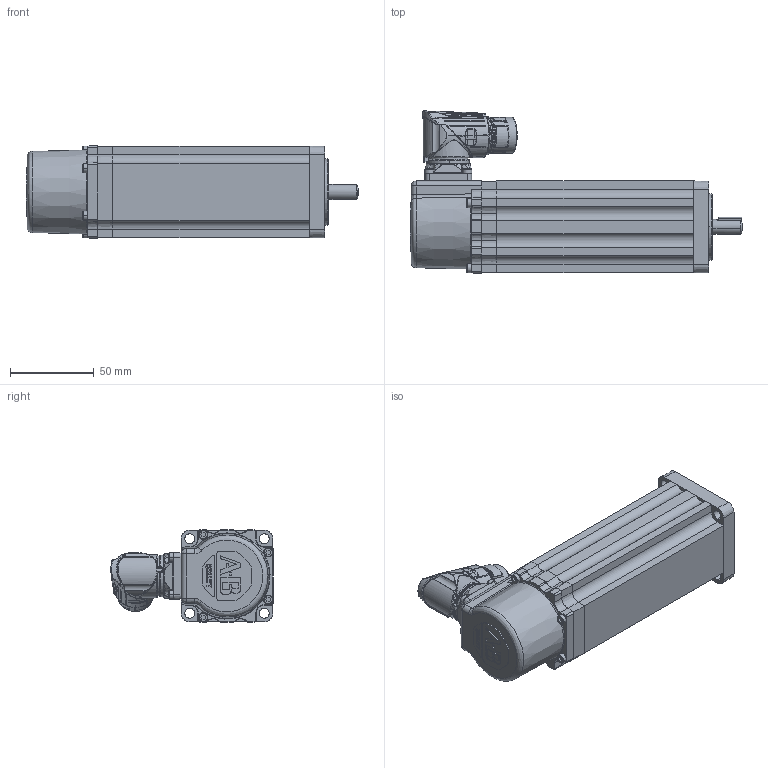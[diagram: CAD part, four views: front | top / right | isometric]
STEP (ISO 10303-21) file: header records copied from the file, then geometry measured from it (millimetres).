
FILE_DESCRIPTION (( 'STEP AP214' ), '1' );
FILE_NAME ('Rockwell Automation-$PARTNUMBER.STEP', '2014-05-11T11:37:57', ( 'Windows User' ), ( '' ), 'SwSTEP 2.0', 'SolidWorks 2014', '' );
FILE_SCHEMA (( 'AUTOMOTIVE_DESIGN' ));
Length unit declared in the file: inch
Products named in the file (25): Rockwell Automation-$PARTNUMBER_Rockwell Automation-VPF-x0632x-xJx4xx_PRT0008; Rockwell Automation-$PARTNUMBER_Rockwell Automation-VPF-x0632x-xJx4xx_PRT0006; Rockwell Automation-$PARTNUMBER_Rockwell Automation-VPF-x0632x-xJx4xx_vpf-063_asm_0632-k-break; Rockwell Automation-$PARTNUMBER_Rockwell Automation-VPF-x0632x-xJx4xx_PRT0004; Rockwell Automation-$PARTNUMBER_Rockwell Automation-VPF-x0632x-xJx4xx_PRT0017; Rockwell Automation-$PARTNUMBER_Rockwell Automation-VPF-x0632x-xJx4xx_PRT0003; Rockwell Automation-$PARTNUMBER_Rockwell Automation-VPF-x0632x-xJx4xx_PRT0016_Shaft_2_4; Rockwell Automation-$PARTNUMBER_Rockwell Automation-VPF-x0632x-xJx4xx_PRT0002; Rockwell Automation-$PARTNUMBER_Rockwell Automation-VPF-x0632x-xJx4xx_ASM0006_ASM; Rockwell Automation-$PARTNUMBER_Rockwell Automation-VPF-x0632x-xJx4xx_Part21_0632-K-BREAK; Rockwell Automation-$PARTNUMBER_Rockwell Automation-VPF-x0632x-xJx4xx_ASM0007_ASM; Rockwell Automation-$PARTNUMBER_Rockwell Automation-VPF-x0632x-xJx4xx_ASM0009_ASM; Rockwell Automation-$PARTNUMBER; Rockwell Automation-$PARTNUMBER_Rockwell Automation-VPF-x0632x-xJx4xx_PRT0019; Rockwell Automation-$PARTNUMBER_Rockwell Automation-VPF-x0632x-xJx4xx_PRT0018; Rockwell Automation-$PARTNUMBER_Rockwell Automation-VPF-x0632x-xJx4xx_PRT0015; Rockwell Automation-$PARTNUMBER_Rockwell Automation-VPF-x0632x-xJx4xx_ASM0002_ASM; Rockwell Automation-$PARTNUMBER_Rockwell Automation-VPF-x0632x-xJx4xx_ASM0005_ASM; Rockwell Automation-$PARTNUMBER_Rockwell Automation-VPF-x0632x-xJx4xx_PRT0011; Rockwell Automation-$PARTNUMBER_Rockwell Automation-VPF-x0632x-xJx4xx_PRT0010; Rockwell Automation-$PARTNUMBER_Rockwell Automation-VPF-x0632x-xJx4xx_ASM0003_ASM; Rockwell Automation-$PARTNUMBER_Rockwell Automation-VPF-x0632x-xJx4xx_ASM0004_ASM; Rockwell Automation-$PARTNUMBER_Rockwell Automation-VPF-x0632x-xJx4xx_PRT0008_1; Rockwell Automation-$PARTNUMBER_Rockwell Automation-VPF-x0632x-xJx4xx_PRT0005; Rockwell Automation-$PARTNUMBER_Rockwell Automation-VPF-x0632x-xJx4xx_PRT0007
Assembly tree (38 placements, depth 6):
  Rockwell Automation-$PARTNUMBER
    Rockwell Automation-$PARTNUMBER_Rockwell Automation-VPF-x0632x-xJx4xx_vpf-063_asm_0632-k-break
      Rockwell Automation-$PARTNUMBER_Rockwell Automation-VPF-x0632x-xJx4xx_Part21_0632-K-BREAK
      Rockwell Automation-$PARTNUMBER_Rockwell Automation-VPF-x0632x-xJx4xx_ASM0002_ASM
        Rockwell Automation-$PARTNUMBER_Rockwell Automation-VPF-x0632x-xJx4xx_PRT0002  x4
        Rockwell Automation-$PARTNUMBER_Rockwell Automation-VPF-x0632x-xJx4xx_PRT0003  x4
        Rockwell Automation-$PARTNUMBER_Rockwell Automation-VPF-x0632x-xJx4xx_PRT0004  x2
        Rockwell Automation-$PARTNUMBER_Rockwell Automation-VPF-x0632x-xJx4xx_ASM0003_ASM
          Rockwell Automation-$PARTNUMBER_Rockwell Automation-VPF-x0632x-xJx4xx_PRT0006
          Rockwell Automation-$PARTNUMBER_Rockwell Automation-VPF-x0632x-xJx4xx_ASM0004_ASM
            Rockwell Automation-$PARTNUMBER_Rockwell Automation-VPF-x0632x-xJx4xx_PRT0008
            Rockwell Automation-$PARTNUMBER_Rockwell Automation-VPF-x0632x-xJx4xx_PRT0007
            Rockwell Automation-$PARTNUMBER_Rockwell Automation-VPF-x0632x-xJx4xx_PRT0005  x4
            Rockwell Automation-$PARTNUMBER_Rockwell Automation-VPF-x0632x-xJx4xx_PRT0008_1
        Rockwell Automation-$PARTNUMBER_Rockwell Automation-VPF-x0632x-xJx4xx_ASM0005_ASM
          Rockwell Automation-$PARTNUMBER_Rockwell Automation-VPF-x0632x-xJx4xx_PRT0010
          Rockwell Automation-$PARTNUMBER_Rockwell Automation-VPF-x0632x-xJx4xx_PRT0011  x2
      Rockwell Automation-$PARTNUMBER_Rockwell Automation-VPF-x0632x-xJx4xx_ASM0006_ASM
        Rockwell Automation-$PARTNUMBER_Rockwell Automation-VPF-x0632x-xJx4xx_ASM0007_ASM
          Rockwell Automation-$PARTNUMBER_Rockwell Automation-VPF-x0632x-xJx4xx_PRT0015  x4
          Rockwell Automation-$PARTNUMBER_Rockwell Automation-VPF-x0632x-xJx4xx_PRT0018
          Rockwell Automation-$PARTNUMBER_Rockwell Automation-VPF-x0632x-xJx4xx_ASM0009_ASM
            Rockwell Automation-$PARTNUMBER_Rockwell Automation-VPF-x0632x-xJx4xx_PRT0019
      Rockwell Automation-$PARTNUMBER_Rockwell Automation-VPF-x0632x-xJx4xx_PRT0016_Shaft_2_4
      Rockwell Automation-$PARTNUMBER_Rockwell Automation-VPF-x0632x-xJx4xx_PRT0017
Bounding box: 198.7 x 97.19 x 55.31 mm (x, y, z)
Volume: 153198.7 mm3; surface area: 140238.6 mm2
Topology: 24 solids, 42 shells, 2913 faces, 7987 edges, 5159 vertices
Faces by surface type: cylinder 975, plane 879, bspline 617, cone 428, torus 14
Entity records: 136629 total; most frequent: CARTESIAN_POINT 70028, ORIENTED_EDGE 12559, DIRECTION 7844, EDGE_CURVE 6294, VERTEX_POINT 4144, B_SPLINE_CURVE_WITH_KNOTS 3013, AXIS2_PLACEMENT_3D 2939, EDGE_LOOP 2434
